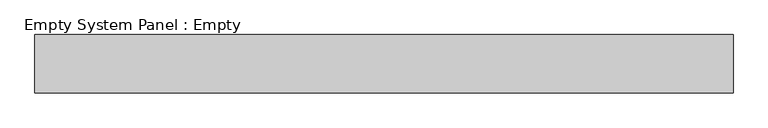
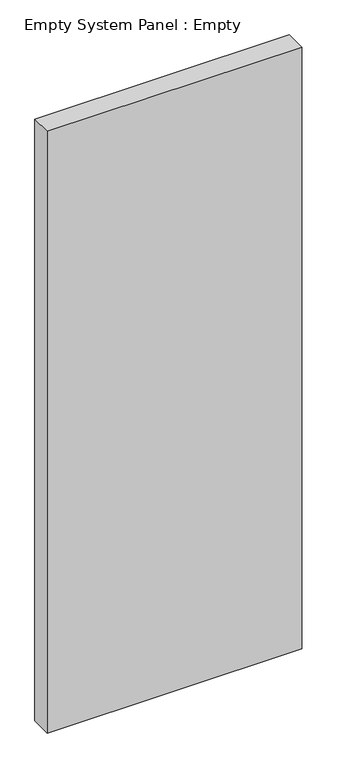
"""IFC4 building model written with IfcOpenShell, lengths in millimetres: plate geometry, Empty System Panel : Empty."""

from ifc_helpers import new_model, si_unit, origin, origin_with_axes, place, context, project, spatial, polyline, outline, extrude, source, transform, mapped, element, save


def empty_system_panel_empty_50a928b3(model_context):
    return source(origin(), model_context, "Body", "SweptSolid", [
        extrude(outline(polyline([(600.0, -50.0), (-600.0, -50.0), (-600.0, 50.0), (600.0, 50.0), (600.0, -50.0)])), origin_with_axes(), (0.0, 0.0, 1.0), 3000.0),
    ])


if __name__ == "__main__":
    model = new_model("IFC4")
    model_context = context("Model", 3, world=origin())
    ifc_project = project(units=[si_unit("LENGTHUNIT", "METRE", prefix="MILLI")], contexts=[model_context])
    site = spatial("IfcSite", under=ifc_project)
    building = spatial("IfcBuilding", under=site)
    placement = place(None, origin())
    empty_system_panel_empty_shape = empty_system_panel_empty_50a928b3(model_context)
    element("IfcPlate", 1, ObjectType="Empty System Panel : Empty", at=placement, inside=building, context=model_context, shape_type="MappedRepresentation", body=[
        mapped(empty_system_panel_empty_shape, transform((0.0, 0.0, 0.0), x_axis=(1.0, 0.0, 0.0), y_axis=(0.0, 1.0, 0.0), z_axis=(0.0, 0.0, 1.0))),
    ])
    save(model, "model.ifc")
